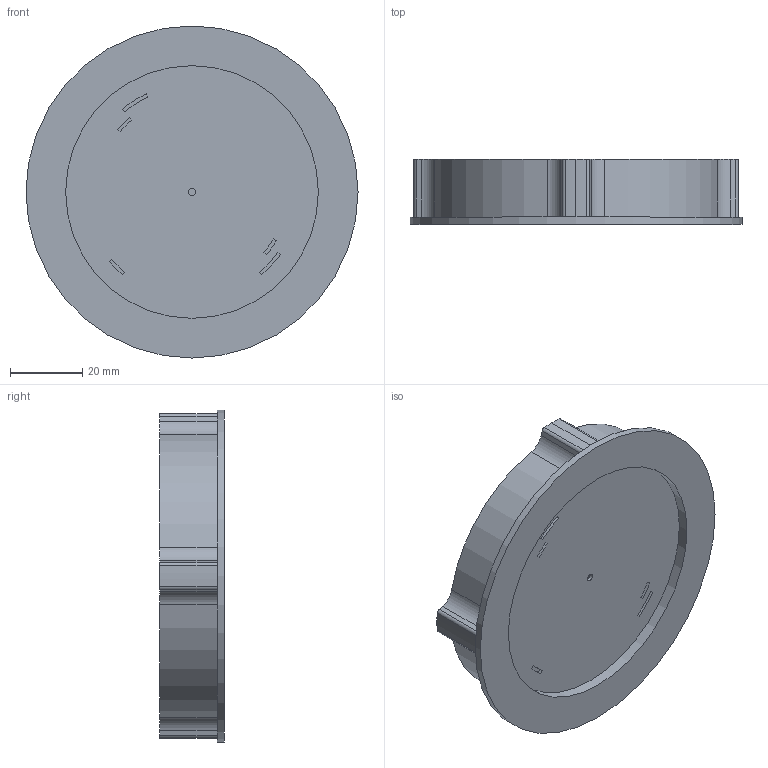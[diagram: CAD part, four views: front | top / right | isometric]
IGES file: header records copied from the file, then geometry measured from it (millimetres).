
Start section: Data from Parasolid IGES Translator 15.0.47, Copyright(c) 2006 Siemens P LM Software. All Rights Reserved.
Global section: file name: 9086694.igs; native system:  By UGS Corp.; preprocessor: XPlus GENERIC/IGES 3.0; author: Noname; organization: Noname; date: 20140122.180646; units: millimetre
Bounding box: 92 x 18 x 92 mm (x, y, z)
Surface area: 19272.1 mm2 (no closed solid volume)
Topology: 0 solids, 0 shells, 70 faces, 348 edges, 341 vertices
Faces by surface type: revolution 40, extrusion 30
